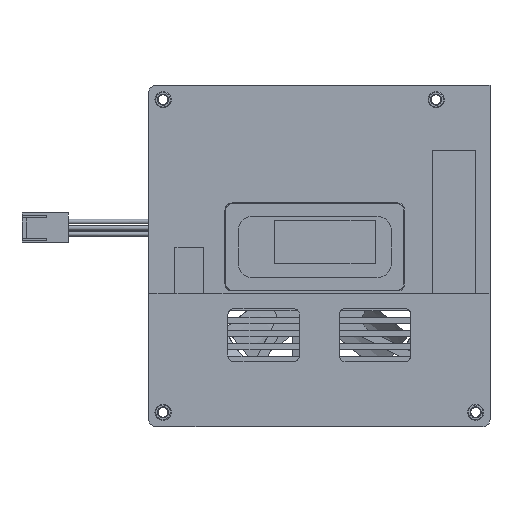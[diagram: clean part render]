
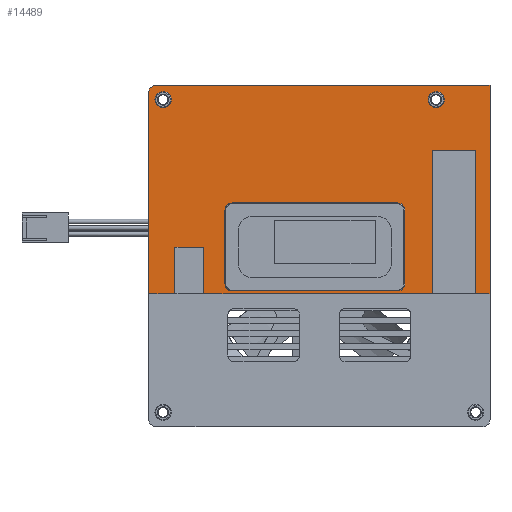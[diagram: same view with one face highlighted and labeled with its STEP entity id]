
A CAD part, front view. The second image highlights one B-rep face of the part: STEP entity #14489.
In plain terms, the highlighted planar face has unit normal (0, -1, 0).
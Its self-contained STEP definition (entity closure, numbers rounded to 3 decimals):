
#395=CARTESIAN_POINT('',(4.,9.,-4.));
#396=DIRECTION('',(0.,-1.,0.));
#397=DIRECTION('',(0.,0.,-1.));
#398=AXIS2_PLACEMENT_3D('',#395,#396,#397);
#418=DIRECTION('',(1.,0.,0.));
#419=VECTOR('',#418,7.5);
#420=CARTESIAN_POINT('',(0.,9.,-58.));
#421=LINE('',#420,#419);
#425=DIRECTION('',(0.,0.,-1.));
#426=VECTOR('',#425,56.);
#427=CARTESIAN_POINT('',(0.,9.,-2.));
#428=LINE('',#427,#426);
#432=CARTESIAN_POINT('',(2.,9.,-2.));
#433=DIRECTION('',(0.,-1.,0.));
#434=DIRECTION('',(0.,0.,1.));
#435=AXIS2_PLACEMENT_3D('',#432,#433,#434);
#440=DIRECTION('',(-1.,0.,0.));
#441=VECTOR('',#440,93.);
#442=CARTESIAN_POINT('',(95.,9.,0.));
#443=LINE('',#442,#441);
#447=DIRECTION('',(0.,0.,1.));
#448=VECTOR('',#447,58.);
#449=CARTESIAN_POINT('',(95.,9.,-58.));
#450=LINE('',#449,#448);
#454=DIRECTION('',(1.,0.,0.));
#455=VECTOR('',#454,4.);
#456=CARTESIAN_POINT('',(91.,9.,-58.));
#457=LINE('',#456,#455);
#461=DIRECTION('',(1.,0.,0.));
#462=VECTOR('',#461,63.9);
#463=CARTESIAN_POINT('',(15.1,9.,-58.));
#464=LINE('',#463,#462);
#468=CARTESIAN_POINT('',(4.,9.,-4.));
#469=DIRECTION('',(0.,-1.,0.));
#470=DIRECTION('',(0.,0.,1.));
#471=AXIS2_PLACEMENT_3D('',#468,#469,#470);
#491=CARTESIAN_POINT('',(80.,9.,-4.));
#492=DIRECTION('',(0.,-1.,0.));
#493=DIRECTION('',(0.,0.,-1.));
#494=AXIS2_PLACEMENT_3D('',#491,#492,#493);
#514=CARTESIAN_POINT('',(80.,9.,-4.));
#515=DIRECTION('',(0.,-1.,0.));
#516=DIRECTION('',(0.,0.,1.));
#517=AXIS2_PLACEMENT_3D('',#514,#515,#516);
#565=DIRECTION('',(0.,0.,1.));
#566=VECTOR('',#565,20.5);
#567=CARTESIAN_POINT('',(71.23,9.,-55.24));
#568=LINE('',#567,#566);
#601=CARTESIAN_POINT('',(69.23,9.,-55.24));
#602=DIRECTION('',(0.,1.,0.));
#603=DIRECTION('',(1.,0.,0.));
#604=AXIS2_PLACEMENT_3D('',#601,#602,#603);
#623=DIRECTION('',(1.,0.,0.));
#624=VECTOR('',#623,46.);
#625=CARTESIAN_POINT('',(23.23,9.,-57.24));
#626=LINE('',#625,#624);
#659=CARTESIAN_POINT('',(23.23,9.,-55.24));
#660=DIRECTION('',(0.,1.,0.));
#661=DIRECTION('',(0.,0.,-1.));
#662=AXIS2_PLACEMENT_3D('',#659,#660,#661);
#681=DIRECTION('',(0.,0.,-1.));
#682=VECTOR('',#681,20.5);
#683=CARTESIAN_POINT('',(21.23,9.,-34.74));
#684=LINE('',#683,#682);
#717=CARTESIAN_POINT('',(23.23,9.,-34.74));
#718=DIRECTION('',(0.,1.,0.));
#719=DIRECTION('',(-1.,0.,0.));
#720=AXIS2_PLACEMENT_3D('',#717,#718,#719);
#739=DIRECTION('',(-1.,0.,0.));
#740=VECTOR('',#739,46.);
#741=CARTESIAN_POINT('',(69.23,9.,-32.74));
#742=LINE('',#741,#740);
#775=CARTESIAN_POINT('',(69.23,9.,-34.74));
#776=DIRECTION('',(0.,1.,0.));
#777=DIRECTION('',(0.,0.,1.));
#778=AXIS2_PLACEMENT_3D('',#775,#776,#777);
#1019=DIRECTION('',(0.,0.,-1.));
#1020=VECTOR('',#1019,12.6);
#1021=CARTESIAN_POINT('',(15.3,9.,-45.2));
#1022=LINE('',#1021,#1020);
#1047=CARTESIAN_POINT('',(15.1,9.,-57.8));
#1048=DIRECTION('',(0.,1.,0.));
#1049=DIRECTION('',(1.,0.,0.));
#1050=AXIS2_PLACEMENT_3D('',#1047,#1048,#1049);
#1112=DIRECTION('',(0.,0.,-1.));
#1113=VECTOR('',#1112,40.);
#1114=CARTESIAN_POINT('',(79.,9.,-18.));
#1115=LINE('',#1114,#1113);
#1133=DIRECTION('',(-1.,0.,0.));
#1134=VECTOR('',#1133,12.);
#1135=CARTESIAN_POINT('',(91.,9.,-18.));
#1136=LINE('',#1135,#1134);
#1154=DIRECTION('',(0.,0.,-1.));
#1155=VECTOR('',#1154,40.);
#1156=CARTESIAN_POINT('',(91.,9.,-18.));
#1157=LINE('',#1156,#1155);
#1273=CARTESIAN_POINT('',(7.5,9.,-57.8));
#1274=DIRECTION('',(0.,1.,0.));
#1275=DIRECTION('',(0.,0.,-1.));
#1276=AXIS2_PLACEMENT_3D('',#1273,#1274,#1275);
#1289=DIRECTION('',(0.,0.,-1.));
#1290=VECTOR('',#1289,12.6);
#1291=CARTESIAN_POINT('',(7.3,9.,-45.2));
#1292=LINE('',#1291,#1290);
#1317=CARTESIAN_POINT('',(7.5,9.,-45.2));
#1318=DIRECTION('',(0.,1.,0.));
#1319=DIRECTION('',(-1.,0.,0.));
#1320=AXIS2_PLACEMENT_3D('',#1317,#1318,#1319);
#1333=DIRECTION('',(-1.,0.,0.));
#1334=VECTOR('',#1333,7.6);
#1335=CARTESIAN_POINT('',(15.1,9.,-45.));
#1336=LINE('',#1335,#1334);
#1361=CARTESIAN_POINT('',(15.1,9.,-45.2));
#1362=DIRECTION('',(0.,1.,0.));
#1363=DIRECTION('',(0.,0.,1.));
#1364=AXIS2_PLACEMENT_3D('',#1361,#1362,#1363);
#14056=CARTESIAN_POINT('',(2.,9.,0.));
#14057=CARTESIAN_POINT('',(0.,9.,-2.));
#14058=VERTEX_POINT('',#14056);
#14059=VERTEX_POINT('',#14057);
#14060=CARTESIAN_POINT('',(0.,9.,-58.));
#14061=VERTEX_POINT('',#14060);
#14062=CARTESIAN_POINT('',(95.,9.,-58.));
#14063=CARTESIAN_POINT('',(95.,9.,0.));
#14064=VERTEX_POINT('',#14062);
#14065=VERTEX_POINT('',#14063);
#14066=CARTESIAN_POINT('',(4.,9.,-6.25));
#14067=CARTESIAN_POINT('',(4.,9.,-1.75));
#14068=VERTEX_POINT('',#14066);
#14069=VERTEX_POINT('',#14067);
#14070=CARTESIAN_POINT('',(80.,9.,-6.25));
#14071=CARTESIAN_POINT('',(80.,9.,-1.75));
#14072=VERTEX_POINT('',#14070);
#14073=VERTEX_POINT('',#14071);
#14074=CARTESIAN_POINT('',(71.23,9.,-55.24));
#14075=CARTESIAN_POINT('',(71.23,9.,-34.74));
#14076=VERTEX_POINT('',#14074);
#14077=VERTEX_POINT('',#14075);
#14078=CARTESIAN_POINT('',(69.23,9.,-32.74));
#14079=CARTESIAN_POINT('',(23.23,9.,-32.74));
#14080=VERTEX_POINT('',#14078);
#14081=VERTEX_POINT('',#14079);
#14082=CARTESIAN_POINT('',(21.23,9.,-34.74));
#14083=CARTESIAN_POINT('',(21.23,9.,-55.24));
#14084=VERTEX_POINT('',#14082);
#14085=VERTEX_POINT('',#14083);
#14086=CARTESIAN_POINT('',(23.23,9.,-57.24));
#14087=VERTEX_POINT('',#14086);
#14088=CARTESIAN_POINT('',(69.23,9.,-57.24));
#14089=VERTEX_POINT('',#14088);
#14090=CARTESIAN_POINT('',(15.3,9.,-45.2));
#14091=CARTESIAN_POINT('',(15.3,9.,-57.8));
#14092=VERTEX_POINT('',#14090);
#14093=VERTEX_POINT('',#14091);
#14094=CARTESIAN_POINT('',(15.1,9.,-45.));
#14095=CARTESIAN_POINT('',(7.5,9.,-45.));
#14096=VERTEX_POINT('',#14094);
#14097=VERTEX_POINT('',#14095);
#14098=CARTESIAN_POINT('',(7.3,9.,-45.2));
#14099=CARTESIAN_POINT('',(7.3,9.,-57.8));
#14100=VERTEX_POINT('',#14098);
#14101=VERTEX_POINT('',#14099);
#14102=CARTESIAN_POINT('',(79.,9.,-18.));
#14103=CARTESIAN_POINT('',(79.,9.,-58.));
#14104=VERTEX_POINT('',#14102);
#14105=VERTEX_POINT('',#14103);
#14106=CARTESIAN_POINT('',(91.,9.,-18.));
#14107=CARTESIAN_POINT('',(91.,9.,-58.));
#14108=VERTEX_POINT('',#14106);
#14109=VERTEX_POINT('',#14107);
#14114=CARTESIAN_POINT('',(7.5,9.,-58.));
#14115=VERTEX_POINT('',#14114);
#14116=CARTESIAN_POINT('',(15.1,9.,-58.));
#14117=VERTEX_POINT('',#14116);
#14419=CARTESIAN_POINT('',(0.,9.,0.));
#14420=DIRECTION('',(0.,-1.,0.));
#14421=DIRECTION('',(1.,0.,0.));
#14422=AXIS2_PLACEMENT_3D('',#14419,#14420,#14421);
#14423=PLANE('',#14422);
#14425=ORIENTED_EDGE('',*,*,#14424,.F.);
#14427=ORIENTED_EDGE('',*,*,#14426,.F.);
#14429=ORIENTED_EDGE('',*,*,#14428,.T.);
#14431=ORIENTED_EDGE('',*,*,#14430,.F.);
#14433=ORIENTED_EDGE('',*,*,#14432,.T.);
#14435=ORIENTED_EDGE('',*,*,#14434,.F.);
#14437=ORIENTED_EDGE('',*,*,#14436,.F.);
#14439=ORIENTED_EDGE('',*,*,#14438,.F.);
#14441=ORIENTED_EDGE('',*,*,#14440,.F.);
#14443=ORIENTED_EDGE('',*,*,#14442,.F.);
#14445=ORIENTED_EDGE('',*,*,#14444,.F.);
#14447=ORIENTED_EDGE('',*,*,#14446,.F.);
#14449=ORIENTED_EDGE('',*,*,#14448,.F.);
#14451=ORIENTED_EDGE('',*,*,#14450,.T.);
#14453=ORIENTED_EDGE('',*,*,#14452,.T.);
#14455=ORIENTED_EDGE('',*,*,#14454,.F.);
#14457=ORIENTED_EDGE('',*,*,#14456,.F.);
#14458=EDGE_LOOP('',(#14425,#14427,#14429,#14431,#14433,#14435,#14437,#14439,
#14441,#14443,#14445,#14447,#14449,#14451,#14453,#14455,#14457));
#14459=FACE_OUTER_BOUND('',#14458,.F.);
#14461=ORIENTED_EDGE('',*,*,#14460,.T.);
#14463=ORIENTED_EDGE('',*,*,#14462,.T.);
#14464=EDGE_LOOP('',(#14461,#14463));
#14465=FACE_BOUND('',#14464,.F.);
#14467=ORIENTED_EDGE('',*,*,#14466,.T.);
#14469=ORIENTED_EDGE('',*,*,#14468,.F.);
#14471=ORIENTED_EDGE('',*,*,#14470,.T.);
#14473=ORIENTED_EDGE('',*,*,#14472,.F.);
#14475=ORIENTED_EDGE('',*,*,#14474,.T.);
#14477=ORIENTED_EDGE('',*,*,#14476,.F.);
#14479=ORIENTED_EDGE('',*,*,#14478,.T.);
#14481=ORIENTED_EDGE('',*,*,#14480,.F.);
#14482=EDGE_LOOP('',(#14467,#14469,#14471,#14473,#14475,#14477,#14479,#14481));
#14483=FACE_BOUND('',#14482,.F.);
#14484=ORIENTED_EDGE('',*,*,#14409,.T.);
#14486=ORIENTED_EDGE('',*,*,#14485,.T.);
#14487=EDGE_LOOP('',(#14484,#14486));
#14488=FACE_BOUND('',#14487,.F.);
#399=CIRCLE('',#398,2.25);
#436=CIRCLE('',#435,2.);
#472=CIRCLE('',#471,2.25);
#495=CIRCLE('',#494,2.25);
#518=CIRCLE('',#517,2.25);
#605=CIRCLE('',#604,2.);
#663=CIRCLE('',#662,2.);
#721=CIRCLE('',#720,2.);
#779=CIRCLE('',#778,2.);
#1051=CIRCLE('',#1050,0.2);
#1277=CIRCLE('',#1276,0.2);
#1321=CIRCLE('',#1320,0.2);
#1365=CIRCLE('',#1364,0.2);
#14409=EDGE_CURVE('',#14068,#14069,#399,.T.);
#14424=EDGE_CURVE('',#14092,#14093,#1022,.T.);
#14426=EDGE_CURVE('',#14096,#14092,#1365,.T.);
#14428=EDGE_CURVE('',#14096,#14097,#1336,.T.);
#14430=EDGE_CURVE('',#14100,#14097,#1321,.T.);
#14432=EDGE_CURVE('',#14100,#14101,#1292,.T.);
#14434=EDGE_CURVE('',#14115,#14101,#1277,.T.);
#14436=EDGE_CURVE('',#14061,#14115,#421,.T.);
#14438=EDGE_CURVE('',#14059,#14061,#428,.T.);
#14440=EDGE_CURVE('',#14058,#14059,#436,.T.);
#14442=EDGE_CURVE('',#14065,#14058,#443,.T.);
#14444=EDGE_CURVE('',#14064,#14065,#450,.T.);
#14446=EDGE_CURVE('',#14109,#14064,#457,.T.);
#14448=EDGE_CURVE('',#14108,#14109,#1157,.T.);
#14450=EDGE_CURVE('',#14108,#14104,#1136,.T.);
#14452=EDGE_CURVE('',#14104,#14105,#1115,.T.);
#14454=EDGE_CURVE('',#14117,#14105,#464,.T.);
#14456=EDGE_CURVE('',#14093,#14117,#1051,.T.);
#14460=EDGE_CURVE('',#14072,#14073,#495,.T.);
#14462=EDGE_CURVE('',#14073,#14072,#518,.T.);
#14466=EDGE_CURVE('',#14076,#14077,#568,.T.);
#14468=EDGE_CURVE('',#14080,#14077,#779,.T.);
#14470=EDGE_CURVE('',#14080,#14081,#742,.T.);
#14472=EDGE_CURVE('',#14084,#14081,#721,.T.);
#14474=EDGE_CURVE('',#14084,#14085,#684,.T.);
#14476=EDGE_CURVE('',#14087,#14085,#663,.T.);
#14478=EDGE_CURVE('',#14087,#14089,#626,.T.);
#14480=EDGE_CURVE('',#14076,#14089,#605,.T.);
#14485=EDGE_CURVE('',#14069,#14068,#472,.T.);
#14489=ADVANCED_FACE('',(#14459,#14465,#14483,#14488),#14423,.T.);
